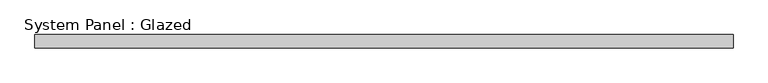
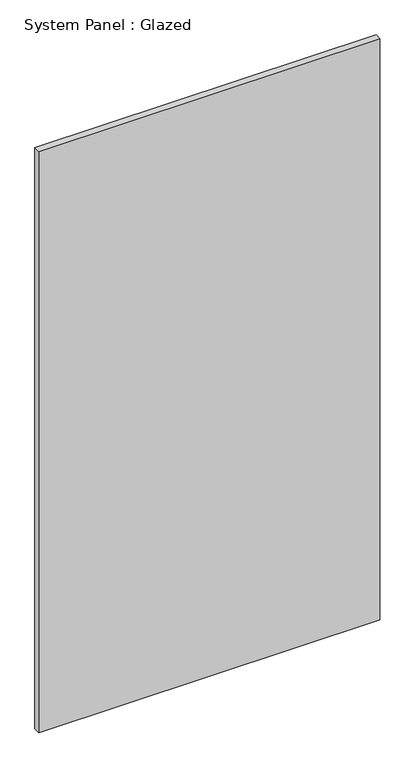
"""IFC4 building model written with IfcOpenShell, lengths in millimetres: plate geometry, System Panel : Glazed."""

from ifc_helpers import new_model, si_unit, origin, origin_with_axes, place, context, project, spatial, polyline, outline, extrude, source, transform, mapped, element, save


def system_panel_glazed_0db3b356(model_context):
    return source(origin(), model_context, "Body", "SweptSolid", [
        extrude(outline(polyline([(663.0142443, -49.5), (-663.0142443, -49.5), (-663.0142443, -24.5), (663.0142443, -24.5), (663.0142443, -49.5)])), origin_with_axes(), (0.0, 0.0, 1.0), 2390.0),
    ])


if __name__ == "__main__":
    model = new_model("IFC4")
    model_context = context("Model", 3, world=origin())
    ifc_project = project(units=[si_unit("LENGTHUNIT", "METRE", prefix="MILLI")], contexts=[model_context])
    site = spatial("IfcSite", under=ifc_project)
    building = spatial("IfcBuilding", under=site)
    placement = place(None, origin())
    system_panel_glazed_shape = system_panel_glazed_0db3b356(model_context)
    element("IfcPlate", 1, ObjectType="System Panel : Glazed", at=placement, inside=building, context=model_context, shape_type="MappedRepresentation", body=[
        mapped(system_panel_glazed_shape, transform((0.0, 0.0, 0.0), x_axis=(1.0, 0.0, 0.0), y_axis=(0.0, 1.0, 0.0), z_axis=(0.0, 0.0, 1.0))),
    ])
    save(model, "model.ifc")
